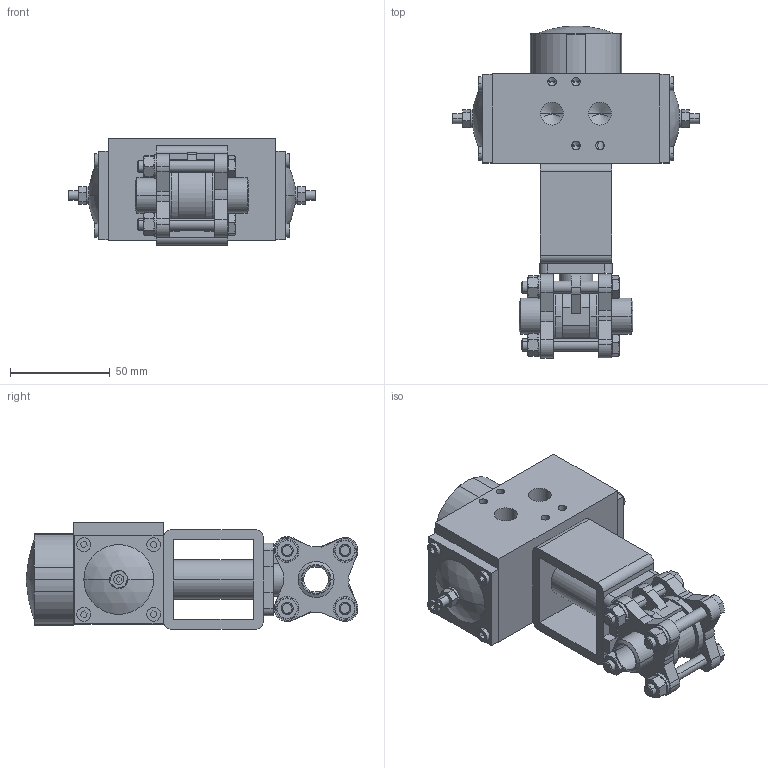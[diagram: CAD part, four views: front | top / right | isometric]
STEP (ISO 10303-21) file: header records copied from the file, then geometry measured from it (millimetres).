
FILE_DESCRIPTION (( 'STEP AP214' ), '1' );
FILE_NAME ('A13 DN10-3_8 BW + AP0D.STEP', '2012-04-23T09:23:19', ( '' ), ( '' ), 'SwSTEP 2.0', 'SolidWorks 2011', '' );
FILE_SCHEMA (( 'AUTOMOTIVE_DESIGN' ));
Length unit declared in the file: millimetre
Products named in the file (9): Brugstuk simplified_YB5050F3F3-3; AP0_Default<As Machined>; A13 DN10 Buttweld; Hexagon Nut ISO 4032 - M6 - D - N_Hexagon Nut ISO 4032 - M6 - D - N; Spring washer DIN 128 - A6_Spring washer DIN 128 - A6; ISO 4014 - M6 x 45 x 18-N_ISO 4014 - M6 x 45 x 18-N; A13 Flens Buttweld DN10; A13 KK DN08 PN63; A13 DN10-3_8 BW + AP0D
Assembly tree (18 placements, depth 3):
  A13 DN10-3_8 BW + AP0D
    Brugstuk simplified_YB5050F3F3-3
    A13 DN10 Buttweld
      ISO 4014 - M6 x 45 x 18-N_ISO 4014 - M6 x 45 x 18-N  x4
      Hexagon Nut ISO 4032 - M6 - D - N_Hexagon Nut ISO 4032 - M6 - D - N  x4
      A13 KK DN08 PN63
      A13 Flens Buttweld DN10  x2
      Spring washer DIN 128 - A6_Spring washer DIN 128 - A6  x4
    AP0_Default<As Machined>
Bounding box: 123.81 x 166.49 x 53.5 mm (x, y, z)
Volume: 397003.7 mm3; surface area: 90417.4 mm2
Topology: 21 solids, 21 shells, 718 faces, 1691 edges, 1043 vertices
Faces by surface type: plane 355, cylinder 200, cone 141, torus 16, sphere 6
Entity records: 15494 total; most frequent: CARTESIAN_POINT 2700, DIRECTION 2467, ORIENTED_EDGE 2280, EDGE_CURVE 1140, AXIS2_PLACEMENT_3D 876, VERTEX_POINT 731, LINE 715, VECTOR 715
